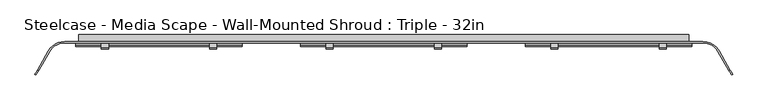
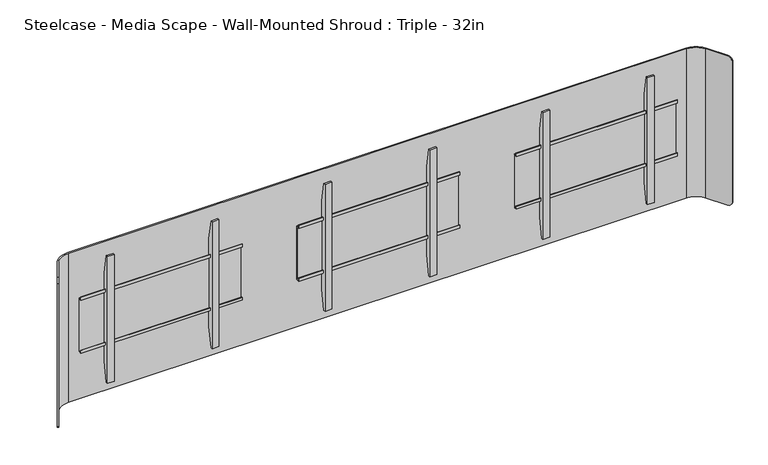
"""IFC4 building model written with IfcOpenShell, lengths in millimetres: furniture geometry, Steelcase - Media Scape - Wall-Mounted Shroud : Triple - 32in."""

from ifc_helpers import new_model, si_unit, frame, origin, place, context, project, spatial, polyline, circle_curve, outline, extrude, source, transform, mapped, element, save
from ifc_brep_helpers import plane_surface, cylinder_surface, revolved_surface, advanced_brep


def steelcase_media_scape_wall_mounted_shroud_triple_32in_3cb7a1fa(model_context):
    return source(origin(), model_context, "Body", "SolidModel", [
        extrude(outline(polyline([(-42.4942785, 1237.6504726), (-42.4942785, 1249.6645649), (-39.8272175, 1249.6645649), (-39.8272175, 1240.317461), (-29.9720009, 1240.317461), (-29.9720009, 1025.9922438), (-42.3164551, 1025.9922438), (-42.3164551, 1036.9142515), (-39.649394, 1036.9142515), (-39.649394, 1028.657052), (-32.6531824, 1028.657052), (-32.6531824, 1237.6504726), (-42.4942785, 1237.6504726)])), frame((518.795, 0.0, 0.0), z_axis=(1.0, 0.0, 0.0), x_axis=(0.0, 1.0, 0.0)), (0.0, 0.0, 1.0), 609.6),
        extrude(outline(polyline([(-32.6531824, 1308.5971148), (-32.6531824, 956.7825607), (-46.5049349, 879.1546949), (-53.3399828, 879.1546949), (-53.3399828, 1387.1547192), (-46.5050076, 1387.1547192), (-32.6531824, 1308.5971148)])), frame((612.396426, 0.0, 0.0), z_axis=(1.0, 0.0, 0.0), x_axis=(0.0, 1.0, 0.0)), (0.0, 0.0, 1.0), 26.1592872),
        extrude(outline(polyline([(-32.6531824, 1308.5971148), (-32.6531824, 956.7825607), (-46.5049349, 879.1546949), (-53.3399828, 879.1546949), (-53.3399828, 1387.1547192), (-46.5050076, 1387.1547192), (-32.6531824, 1308.5971148)])), frame((1008.6342868, 0.0, 0.0), z_axis=(1.0, 0.0, 0.0), x_axis=(0.0, 1.0, 0.0)), (0.0, 0.0, 1.0), 26.1592872),
        extrude(outline(polyline([(-42.4942785, 1237.6504726), (-42.4942785, 1249.6645649), (-39.8272175, 1249.6645649), (-39.8272175, 1240.317461), (-29.9720009, 1240.317461), (-29.9720009, 1025.9922438), (-42.3164551, 1025.9922438), (-42.3164551, 1036.9142515), (-39.649394, 1036.9142515), (-39.649394, 1028.657052), (-32.6531824, 1028.657052), (-32.6531824, 1237.6504726), (-42.4942785, 1237.6504726)])), frame((-1128.395, 0.0, 0.0), z_axis=(1.0, 0.0, 0.0), x_axis=(0.0, 1.0, 0.0)), (0.0, 0.0, 1.0), 609.6),
        extrude(outline(polyline([(-32.6531824, 1308.5971148), (-32.6531824, 956.7825607), (-46.5049349, 879.1546949), (-53.3399828, 879.1546949), (-53.3399828, 1387.1547192), (-46.5050076, 1387.1547192), (-32.6531824, 1308.5971148)])), frame((-638.5557132, 0.0, 0.0), z_axis=(1.0, 0.0, 0.0), x_axis=(0.0, 1.0, 0.0)), (0.0, 0.0, 1.0), 26.1592872),
        extrude(outline(polyline([(-32.6531824, 1308.5971148), (-32.6531824, 956.7825607), (-46.5049349, 879.1546949), (-53.3399828, 879.1546949), (-53.3399828, 1387.1547192), (-46.5050076, 1387.1547192), (-32.6531824, 1308.5971148)])), frame((-1034.793574, 0.0, 0.0), z_axis=(1.0, 0.0, 0.0), x_axis=(0.0, 1.0, 0.0)), (0.0, 0.0, 1.0), 26.1592872),
        extrude(outline(polyline([(-42.4942785, 1237.6504726), (-42.4942785, 1249.6645649), (-39.8272175, 1249.6645649), (-39.8272175, 1240.317461), (-29.9720009, 1240.317461), (-29.9720009, 1025.9922438), (-42.3164551, 1025.9922438), (-42.3164551, 1036.9142515), (-39.649394, 1036.9142515), (-39.649394, 1028.657052), (-32.6531824, 1028.657052), (-32.6531824, 1237.6504726), (-42.4942785, 1237.6504726)])), frame((-304.8, 0.0, 0.0), z_axis=(1.0, 0.0, 0.0), x_axis=(0.0, 1.0, 0.0)), (0.0, 0.0, 1.0), 609.6),
        extrude(outline(polyline([(-32.6531824, 1308.5971148), (-32.6531824, 956.7825607), (-46.5049349, 879.1546949), (-53.3399828, 879.1546949), (-53.3399828, 1387.1547192), (-46.5050076, 1387.1547192), (-32.6531824, 1308.5971148)])), frame((185.0392868, 0.0, 0.0), z_axis=(1.0, 0.0, 0.0), x_axis=(0.0, 1.0, 0.0)), (0.0, 0.0, 1.0), 26.1592872),
        extrude(outline(polyline([(-32.6531824, 1308.5971148), (-32.6531824, 956.7825607), (-46.5049349, 879.1546949), (-53.3399828, 879.1546949), (-53.3399828, 1387.1547192), (-46.5050076, 1387.1547192), (-32.6531824, 1308.5971148)])), frame((-211.198574, 0.0, 0.0), z_axis=(1.0, 0.0, 0.0), x_axis=(0.0, 1.0, 0.0)), (0.0, 0.0, 1.0), 26.1592872),
        advanced_brep(
        [(-1224.4086135, -61.722, 1432.814), (-1169.416002, -29.9720009, 1432.814), (1169.416, -29.9720009, 1432.814), (1224.4086135, -61.722, 1432.814), (1264.529586, -131.2135628, 1432.814), (1268.4890541, -128.9275628, 1432.814), (1228.3680817, -59.436, 1432.814), (1169.416002, -25.4, 1432.814), (-1169.416, -25.4, 1432.814), (-1228.3680817, -59.436, 1432.814), (-1268.4921659, -128.9329524, 1432.814), (-1264.5326977, -131.2189524, 1432.814), (-1228.3680817, -59.436, 835.914), (-1169.416002, -25.4, 835.914), (1169.416, -25.4, 835.914), (1228.3680817, -59.436, 835.914), (1268.5406629, -129.0169518, 835.914), (1264.5811948, -131.3029518, 835.914), (1224.4086135, -61.722, 835.914), (1169.416002, -29.9720009, 835.914), (-1169.416, -29.9720009, 835.914), (-1224.4086135, -61.722, 835.914), (-1264.5954014, -131.3275584, 835.914), (-1268.5548695, -129.0415584, 835.914), (-1278.0590632, -145.5033047, 849.5242766), (-1278.0590632, -145.5033047, 1418.8227735), (-1274.0995951, -147.7893047, 1418.8227735), (-1274.0995951, -147.7893047, 849.5242766), (1274.0770866, -147.7503189, 849.4756893), (1274.0770866, -147.7503189, 1418.9433849), (1278.0365547, -145.4643189, 1418.9433849), (1278.0365547, -145.4643189, 849.4756893)],
        [
            (0, 1, circle_curve(frame((-1169.416002, -93.4719991, 1432.814), z_axis=(0.0, 0.0, -1.0), x_axis=(0.0, 1.0, 0.0)), 63.4999981)),
            (1, 2),
            (2, 3, circle_curve(frame((1169.416002, -93.4719991, 1432.814), z_axis=(0.0, 0.0, -1.0), x_axis=(0.0, 1.0, 0.0)), 63.4999981)),
            (3, 4),
            (4, 5),
            (5, 6),
            (6, 7, circle_curve(frame((1169.4160004, -93.472, 1432.814), z_axis=(0.0, 0.0, 1.0), x_axis=(0.0, 1.0, 0.0)), 68.072)),
            (7, 8),
            (8, 9, circle_curve(frame((-1169.4160004, -93.472, 1432.814), z_axis=(0.0, 0.0, 1.0), x_axis=(0.0, 1.0, 0.0)), 68.072)),
            (9, 10),
            (10, 11),
            (11, 0),
            (12, 13, circle_curve(frame((-1169.4160004, -93.472, 835.914), z_axis=(0.0, 0.0, -1.0), x_axis=(0.0, 1.0, 0.0)), 68.072)),
            (13, 14),
            (14, 15, circle_curve(frame((1169.4160004, -93.472, 835.914), z_axis=(0.0, 0.0, -1.0), x_axis=(0.0, 1.0, 0.0)), 68.072)),
            (15, 16),
            (16, 17),
            (17, 18),
            (18, 19, circle_curve(frame((1169.416002, -93.4719991, 835.914), z_axis=(0.0, 0.0, 1.0), x_axis=(0.0, 1.0, 0.0)), 63.4999981)),
            (19, 20),
            (20, 21, circle_curve(frame((-1169.416002, -93.4719991, 835.914), z_axis=(0.0, 0.0, 1.0), x_axis=(0.0, 1.0, 0.0)), 63.4999981)),
            (21, 22),
            (22, 23),
            (23, 12),
            (0, 21),
            (20, 1),
            (8, 13),
            (12, 9),
            (23, 24, circle_curve(frame((-1268.5548695, -129.0415584, 855.9928872), z_axis=(-0.8660254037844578, 0.49999999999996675, 0.0), x_axis=(-0.49999999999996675, -0.8660254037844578, 0.0)), 20.0788872)),
            (24, 25),
            (25, 10, circle_curve(frame((-1268.4921659, -128.9329524, 1412.7351128), z_axis=(-0.866025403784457, 0.49999999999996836, 0.0), x_axis=(-0.49999999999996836, -0.866025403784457, 0.0)), 20.0788872)),
            (26, 25),
            (24, 27),
            (27, 26),
            (11, 26, circle_curve(frame((-1264.5326977, -131.2189524, 1412.7351128), z_axis=(0.866025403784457, -0.49999999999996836, 0.0), x_axis=(-0.49999999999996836, -0.866025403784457, 0.0)), 20.0788872)),
            (27, 22, circle_curve(frame((-1264.5954014, -131.3275584, 855.9928872), z_axis=(0.8660254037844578, -0.49999999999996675, 0.0), x_axis=(-0.49999999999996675, -0.8660254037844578, 0.0)), 20.0788872)),
            (7, 14),
            (19, 2),
            (3, 18),
            (17, 28, circle_curve(frame((1264.5811948, -131.3029518, 855.9928872), z_axis=(-0.8660254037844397, -0.49999999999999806, 0.0), x_axis=(0.49999999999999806, -0.8660254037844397, 0.0)), 20.0788872)),
            (28, 29),
            (29, 4, circle_curve(frame((1264.529586, -131.2135628, 1412.7351128), z_axis=(-0.8660254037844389, -0.49999999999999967, 0.0), x_axis=(0.49999999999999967, -0.8660254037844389, 0.0)), 20.0788872)),
            (30, 29),
            (28, 31),
            (31, 30),
            (15, 6),
            (5, 30, circle_curve(frame((1268.4890541, -128.9275628, 1412.7351128), z_axis=(0.8660254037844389, 0.49999999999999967, 0.0), x_axis=(0.49999999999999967, -0.8660254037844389, 0.0)), 20.0788872)),
            (31, 16, circle_curve(frame((1268.5406629, -129.0169518, 855.9928872), z_axis=(0.8660254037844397, 0.49999999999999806, 0.0), x_axis=(0.49999999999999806, -0.8660254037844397, 0.0)), 20.0788872)),
        ],
        [
            plane_surface(frame((-1169.416002, -29.9720009, 1432.814), z_axis=(0.0, 0.0, 1.0), x_axis=(1.0, 0.0, 0.0))),
            plane_surface(frame((-1169.416002, -29.9720009, 835.914), z_axis=(0.0, 0.0, -1.0), x_axis=(-1.0, 0.0, 0.0))),
            revolved_surface(polyline([(-1169.416002, -29.972001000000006, 835.914), (-1169.416002, -29.972001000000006, 1432.814)]), (-1169.416002, -93.4719991, 835.914), (0.0, 0.0, -1.0)),
            cylinder_surface(frame((-1169.4160004, -93.472, 835.914), z_axis=(0.0, 0.0, 1.0), x_axis=(0.0, 1.0, 0.0)), 68.072),
            plane_surface(frame((-1228.3680817, -59.436, 1432.814), z_axis=(-0.866025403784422, 0.5000000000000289, 0.0), x_axis=(0.0, 0.0, -1.0))),
            plane_surface(frame((-1278.0590632, -145.5033047, 1432.814), z_axis=(-0.5000000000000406, -0.8660254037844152, 0.0), x_axis=(0.0, 0.0, -1.0))),
            plane_surface(frame((-1274.0995951, -147.7893047, 1432.814), z_axis=(0.8660254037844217, -0.5000000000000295, 0.0), x_axis=(0.0, 0.0, -1.0))),
            plane_surface(frame((1169.416, -25.4, 1432.814), z_axis=(0.0, 1.0, 0.0), x_axis=(0.0, 0.0, -1.0))),
            plane_surface(frame((-1169.416, -29.9720009, 1432.814), z_axis=(0.0, -1.0, 0.0), x_axis=(0.0, 0.0, -1.0))),
            plane_surface(frame((1224.4086135, -61.722, 1432.814), z_axis=(-0.8660254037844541, -0.4999999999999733, 0.0), x_axis=(0.0, 0.0, -1.0))),
            plane_surface(frame((1274.0770866, -147.7503189, 1432.814), z_axis=(0.4999999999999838, -0.866025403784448, 0.0), x_axis=(0.0, 0.0, -1.0))),
            plane_surface(frame((1278.0365547, -145.4643189, 1432.814), z_axis=(0.8660254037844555, 0.49999999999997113, 0.0), x_axis=(0.0, 0.0, -1.0))),
            cylinder_surface(frame((1169.4160004, -93.472, 835.914), z_axis=(0.0, 0.0, 1.0), x_axis=(0.0, 1.0, 0.0)), 68.072),
            revolved_surface(polyline([(1169.416002, -29.972001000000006, 835.914), (1169.416002, -29.972001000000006, 1432.814)]), (1169.416002, -93.4719991, 835.914), (0.0, 0.0, -1.0)),
            cylinder_surface(frame((-1264.5326977, -131.2189524, 1412.7351128), z_axis=(0.866025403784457, -0.49999999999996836, 0.0), x_axis=(-0.49999999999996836, -0.866025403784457, 0.0)), 20.0788872),
            cylinder_surface(frame((-1264.5954014, -131.3275584, 855.9928872), z_axis=(0.8660254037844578, -0.49999999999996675, 0.0), x_axis=(-0.49999999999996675, -0.8660254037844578, 0.0)), 20.0788872),
            cylinder_surface(frame((1279.6364297, -122.4916225, 1412.7351128), z_axis=(0.8660254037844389, 0.49999999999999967, 0.0), x_axis=(0.49999999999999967, -0.8660254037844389, 0.0)), 20.0788872),
            cylinder_surface(frame((1276.8289695, -124.2316958, 855.9928872), z_axis=(0.8660254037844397, 0.49999999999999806, 0.0), x_axis=(0.49999999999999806, -0.8660254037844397, 0.0)), 20.0788872),
        ],
        [
            (0, [[1, 2, 3, 4, 5, 6, 7, 8, 9, 10, 11, 12]]),
            (1, [[13, 14, 15, 16, 17, 18, 19, 20, 21, 22, 23, 24]]),
            (2, [[-1, 25, -21, 26]]),
            (3, [[-9, 27, -13, 28]]),
            (4, [[-28, -24, 29, 30, 31, -10]]),
            (5, [[32, -30, 33, 34]]),
            (6, [[-25, -12, 35, -34, 36, -22]]),
            (7, [[-8, 37, -14, -27]]),
            (8, [[-2, -26, -20, 38]]),
            (9, [[39, -18, 40, 41, 42, -4]]),
            (10, [[43, -41, 44, 45]]),
            (11, [[46, -6, 47, -45, 48, -16]]),
            (12, [[-7, -46, -15, -37]]),
            (13, [[-3, -38, -19, -39]]),
            (14, [[-11, -31, -32, -35]]),
            (15, [[-23, -36, -33, -29]]),
            (16, [[-5, -42, -43, -47]]),
            (17, [[-17, -48, -44, -40]]),
        ],
    ),
        extrude(outline(polyline([(912.1648167, 1054.0999879), (912.1648167, 1117.6), (1356.614, 1117.6), (1356.614, -1117.6), (912.1648167, -1117.6), (912.1648167, -1055.0933465), (1293.1139516, -1055.0933465), (1293.1139516, 1054.0999879), (912.1648167, 1054.0999879)])), frame((0.0, -25.4, 0.0), z_axis=(0.0, 1.0, 0.0), x_axis=(0.0, 0.0, 1.0)), (0.0, 0.0, 1.0), 25.4),
    ])


if __name__ == "__main__":
    model = new_model("IFC4")
    model_context = context("Model", 3, world=origin())
    ifc_project = project(units=[si_unit("LENGTHUNIT", "METRE", prefix="MILLI")], contexts=[model_context])
    site = spatial("IfcSite", under=ifc_project)
    building = spatial("IfcBuilding", under=site)
    placement = place(None, origin())
    steelcase_media_scape_wall_mounted_shroud_triple_32in_shape = steelcase_media_scape_wall_mounted_shroud_triple_32in_3cb7a1fa(model_context)
    element("IfcFurniture", 1, ObjectType="Steelcase - Media Scape - Wall-Mounted Shroud : Triple - 32in", at=placement, inside=building, context=model_context, shape_type="MappedRepresentation", body=[
        mapped(steelcase_media_scape_wall_mounted_shroud_triple_32in_shape, transform((0.0, 0.0, 0.0), x_axis=(1.0, 0.0, 0.0), y_axis=(0.0, 1.0, 0.0), z_axis=(0.0, 0.0, 1.0))),
    ])
    save(model, "model.ifc")
